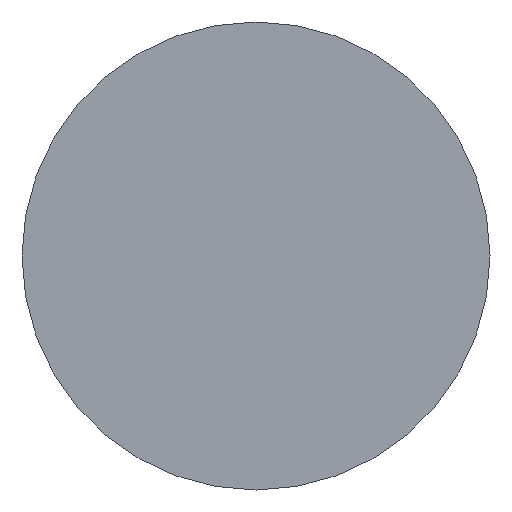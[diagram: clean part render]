
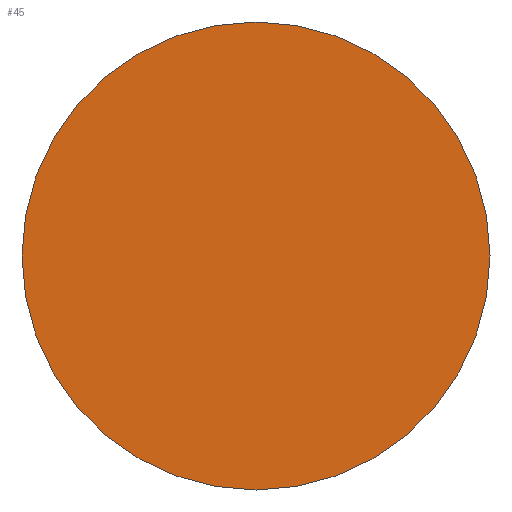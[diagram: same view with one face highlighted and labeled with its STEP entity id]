
A CAD part, left-side view. The second image highlights one B-rep face of the part: STEP entity #45.
In plain terms, the highlighted planar face has unit normal (-1, 0, 0).
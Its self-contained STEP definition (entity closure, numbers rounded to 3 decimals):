
#12 = DIRECTION ( 'NONE',  ( 1., 0., 0. ) ) ;
#24 = CIRCLE ( 'NONE', #196, 4. ) ;
#33 = EDGE_CURVE ( 'NONE', #219, #166, #237, .T. ) ;
#45 = ADVANCED_FACE ( 'NONE', ( #189 ), #134, .T. ) ;
#50 = ORIENTED_EDGE ( 'NONE', *, *, #33, .F. ) ;
#65 = DIRECTION ( 'NONE',  ( -1., 0., 0. ) ) ;
#94 = ORIENTED_EDGE ( 'NONE', *, *, #193, .F. ) ;
#98 = CARTESIAN_POINT ( 'NONE',  ( 0., 4., 0. ) ) ;
#111 = CARTESIAN_POINT ( 'NONE',  ( 0., 0., 0. ) ) ;
#133 = CARTESIAN_POINT ( 'NONE',  ( 0., 0., 0. ) ) ;
#134 = PLANE ( 'NONE',  #221 ) ;
#135 = DIRECTION ( 'NONE',  ( 0., 1., 0. ) ) ;
#162 = DIRECTION ( 'NONE',  ( 0., 1., 0. ) ) ;
#166 = VERTEX_POINT ( 'NONE', #227 ) ;
#189 = FACE_OUTER_BOUND ( 'NONE', #228, .T. ) ;
#192 = AXIS2_PLACEMENT_3D ( 'NONE', #111, #201, #135 ) ;
#193 = EDGE_CURVE ( 'NONE', #166, #219, #24, .T. ) ;
#196 = AXIS2_PLACEMENT_3D ( 'NONE', #262, #12, #162 ) ;
#201 = DIRECTION ( 'NONE',  ( 1., 0., 0. ) ) ;
#219 = VERTEX_POINT ( 'NONE', #98 ) ;
#221 = AXIS2_PLACEMENT_3D ( 'NONE', #133, #65, #268 ) ;
#227 = CARTESIAN_POINT ( 'NONE',  ( 0., -4., 0. ) ) ;
#228 = EDGE_LOOP ( 'NONE', ( #50, #94 ) ) ;
#237 = CIRCLE ( 'NONE', #192, 4. ) ;
#262 = CARTESIAN_POINT ( 'NONE',  ( 0., 0., 0. ) ) ;
#268 = DIRECTION ( 'NONE',  ( 0., -1., 0. ) ) ;
